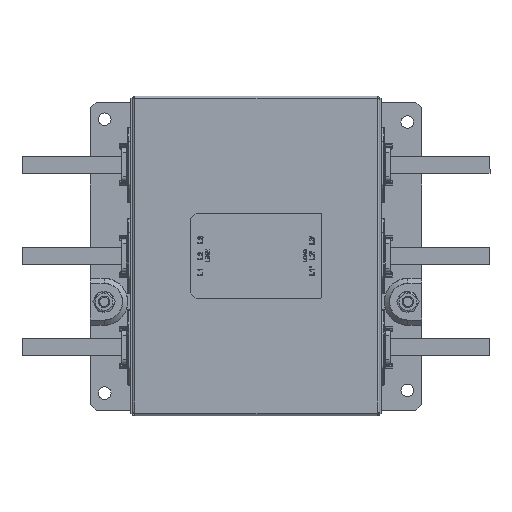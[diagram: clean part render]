
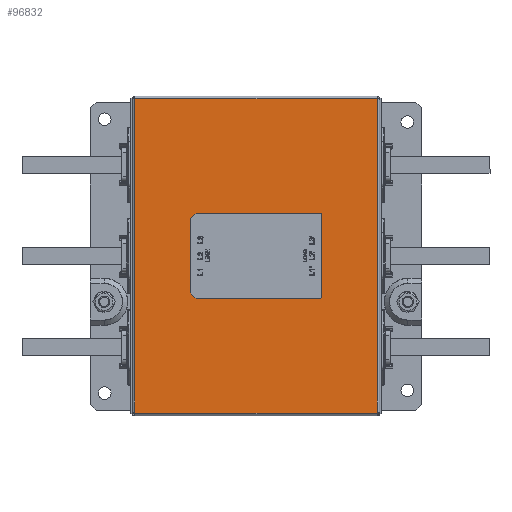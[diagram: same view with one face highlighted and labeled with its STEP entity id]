
A CAD part, top view. The second image highlights one B-rep face of the part: STEP entity #96832.
In plain terms, the highlighted planar face has unit normal (0, 0, 1).
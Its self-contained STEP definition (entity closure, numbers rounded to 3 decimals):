
#19977=CARTESIAN_POINT('',(57.5,35.5,165.));
#19978=VERTEX_POINT('',#19977);
#19985=CARTESIAN_POINT('',(55.5,37.5,165.));
#19986=VERTEX_POINT('',#19985);
#19987=CARTESIAN_POINT('',(55.5,35.5,165.0));
#19988=DIRECTION('',(0.,0.,-1.0));
#19989=DIRECTION('',(0.707,0.707,0.));
#19990=AXIS2_PLACEMENT_3D('',#19987,#19988,#19989);
#19991=CIRCLE('',#19990,2.0);
#19992=EDGE_CURVE('',#19986,#19978,#19991,.T.);
#20010=CARTESIAN_POINT('',(57.5,-35.5,165.));
#20011=VERTEX_POINT('',#20010);
#20018=CARTESIAN_POINT('',(57.5,35.5,165.));
#20019=DIRECTION('',(0.0,-1.0,0.0));
#20020=VECTOR('',#20019,71.0);
#20021=LINE('',#20018,#20020);
#20022=EDGE_CURVE('',#19978,#20011,#20021,.T.);
#20045=CARTESIAN_POINT('',(55.5,-37.5,165.));
#20046=VERTEX_POINT('',#20045);
#20053=CARTESIAN_POINT('',(55.5,-35.5,165.));
#20054=DIRECTION('',(0.,0.,-1.0));
#20055=DIRECTION('',(0.707,-0.707,0.));
#20056=AXIS2_PLACEMENT_3D('',#20053,#20054,#20055);
#20057=CIRCLE('',#20056,2.0);
#20058=EDGE_CURVE('',#20011,#20046,#20057,.T.);
#20071=CARTESIAN_POINT('',(-52.5,-37.5,165.));
#20072=VERTEX_POINT('',#20071);
#20079=CARTESIAN_POINT('',(55.5,-37.5,165.));
#20080=DIRECTION('',(-1.0,0.0,0.0));
#20081=VECTOR('',#20080,108.);
#20082=LINE('',#20079,#20081);
#20083=EDGE_CURVE('',#20046,#20072,#20082,.T.);
#20094=CARTESIAN_POINT('',(-52.5,37.5,165.));
#20095=VERTEX_POINT('',#20094);
#20102=CARTESIAN_POINT('',(-57.5,32.5,165.));
#20103=VERTEX_POINT('',#20102);
#20104=CARTESIAN_POINT('',(-57.5,32.5,165.));
#20105=DIRECTION('',(0.707,0.707,0.0));
#20106=VECTOR('',#20105,7.071);
#20107=LINE('',#20104,#20106);
#20108=EDGE_CURVE('',#20103,#20095,#20107,.T.);
#20125=CARTESIAN_POINT('',(-52.5,37.5,165.));
#20126=DIRECTION('',(1.0,0.0,0.0));
#20127=VECTOR('',#20126,108.0);
#20128=LINE('',#20125,#20127);
#20129=EDGE_CURVE('',#20095,#19986,#20128,.T.);
#20142=CARTESIAN_POINT('',(-57.5,-32.5,165.));
#20143=VERTEX_POINT('',#20142);
#20150=CARTESIAN_POINT('',(-52.5,-37.5,165.0));
#20151=DIRECTION('',(-0.707,0.707,0.0));
#20152=VECTOR('',#20151,7.071);
#20153=LINE('',#20150,#20152);
#20154=EDGE_CURVE('',#20072,#20143,#20153,.T.);
#20166=CARTESIAN_POINT('',(-57.5,-32.5,165.0));
#20167=DIRECTION('',(0.0,1.0,0.0));
#20168=VECTOR('',#20167,65.0);
#20169=LINE('',#20166,#20168);
#20170=EDGE_CURVE('',#20143,#20103,#20169,.T.);
#96783=CARTESIAN_POINT('',(-106.195,-120.005,165.));
#96784=DIRECTION('',(0.0,0.0,1.0));
#96785=DIRECTION('',(0.0,1.0,0.0));
#96786=AXIS2_PLACEMENT_3D('',#96783,#96784,#96785);
#96787=PLANE('',#96786);
#96788=CARTESIAN_POINT('',(-106.2,-137.7,165.));
#96789=VERTEX_POINT('',#96788);
#96790=CARTESIAN_POINT('',(-106.2,137.7,165.));
#96791=VERTEX_POINT('',#96790);
#96792=CARTESIAN_POINT('',(-106.2,-137.7,165.));
#96793=DIRECTION('',(0.0,1.0,0.0));
#96794=VECTOR('',#96793,275.4);
#96795=LINE('',#96792,#96794);
#96796=EDGE_CURVE('',#96789,#96791,#96795,.T.);
#96797=ORIENTED_EDGE('',*,*,#96796,.F.);
#96798=CARTESIAN_POINT('',(106.2,-137.7,165.));
#96799=VERTEX_POINT('',#96798);
#96800=CARTESIAN_POINT('',(-106.2,-137.7,165.));
#96801=DIRECTION('',(1.0,0.0,0.0));
#96802=VECTOR('',#96801,212.4);
#96803=LINE('',#96800,#96802);
#96804=EDGE_CURVE('',#96789,#96799,#96803,.T.);
#96805=ORIENTED_EDGE('',*,*,#96804,.T.);
#96806=CARTESIAN_POINT('',(106.2,137.7,165.));
#96807=VERTEX_POINT('',#96806);
#96808=CARTESIAN_POINT('',(106.2,-137.7,165.));
#96809=DIRECTION('',(0.0,1.0,0.0));
#96810=VECTOR('',#96809,275.4);
#96811=LINE('',#96808,#96810);
#96812=EDGE_CURVE('',#96799,#96807,#96811,.T.);
#96813=ORIENTED_EDGE('',*,*,#96812,.T.);
#96814=CARTESIAN_POINT('',(106.2,137.7,165.));
#96815=DIRECTION('',(-1.0,0.0,0.0));
#96816=VECTOR('',#96815,212.4);
#96817=LINE('',#96814,#96816);
#96818=EDGE_CURVE('',#96807,#96791,#96817,.T.);
#96819=ORIENTED_EDGE('',*,*,#96818,.T.);
#96820=EDGE_LOOP('',(#96797,#96805,#96813,#96819));
#96821=FACE_OUTER_BOUND('',#96820,.T.);
#96822=ORIENTED_EDGE('',*,*,#20108,.T.);
#96823=ORIENTED_EDGE('',*,*,#20129,.T.);
#96824=ORIENTED_EDGE('',*,*,#19992,.T.);
#96825=ORIENTED_EDGE('',*,*,#20022,.T.);
#96826=ORIENTED_EDGE('',*,*,#20058,.T.);
#96827=ORIENTED_EDGE('',*,*,#20083,.T.);
#96828=ORIENTED_EDGE('',*,*,#20154,.T.);
#96829=ORIENTED_EDGE('',*,*,#20170,.T.);
#96830=EDGE_LOOP('',(#96822,#96823,#96824,#96825,#96826,#96827,#96828,#96829));
#96831=FACE_BOUND('',#96830,.T.);
#96832=ADVANCED_FACE('',(#96821,#96831),#96787,.T.);
